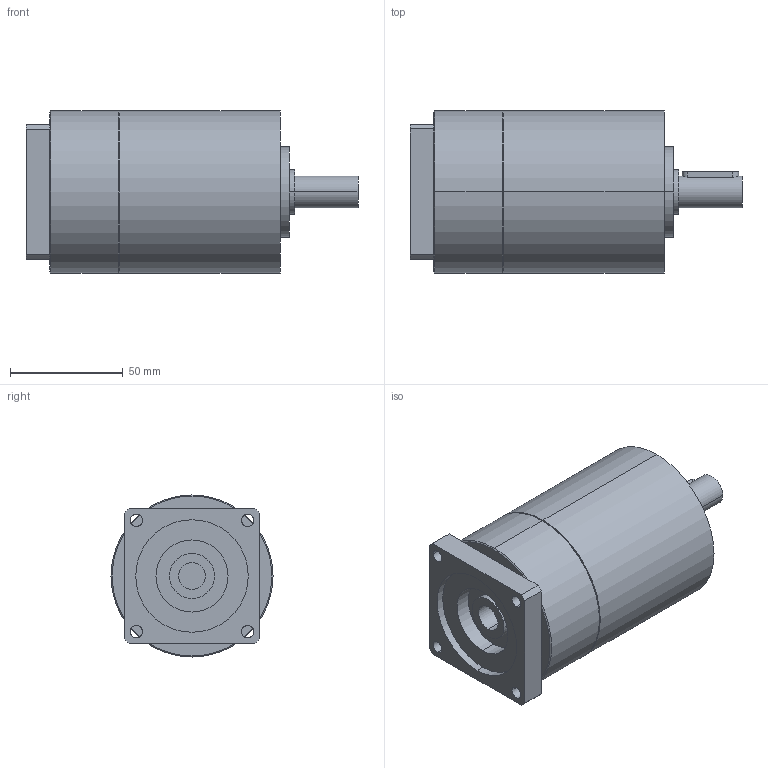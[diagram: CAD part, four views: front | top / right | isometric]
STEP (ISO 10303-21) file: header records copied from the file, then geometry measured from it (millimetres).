
FILE_DESCRIPTION(('CoCreate Modeling STEP Export'),'2;1');
FILE_NAME('GPT75_ig-9-12-16-20-25-28-35-40-50-70-100_14_B14T_12_P20.stp','2014-08-27T13:16:26',(''),(''),'CoCreate Modeling STEP processor for AP214 (Solid Model)','CoCreate Modeling 16.00C 25-Feb-2009 (C) Parametric Technology GmbH','');
FILE_SCHEMA(('AUTOMOTIVE_DESIGN { 1 0 10303 214 1 1 1 1 }'));
Length unit declared in the file: millimetre
Products named in the file (2): GPT75_ig-9-12-16-20-25-28-35-40-50-70-100_14_B14T_12_P20
Assembly tree (1 placements, depth 2):
  GPT75_ig-9-12-16-20-25-28-35-40-50-70-100_14_B14T_12_P20
    GPT75_ig-9-12-16-20-25-28-35-40-50-70-100_14_B14T_12_P20
Bounding box: 147.5 x 72 x 72 mm (x, y, z)
Volume: 448324.9 mm3; surface area: 40455.8 mm2
Topology: 1 solids, 1 shells, 80 faces, 193 edges, 124 vertices
Faces by surface type: cylinder 42, plane 34, cone 4
Entity records: 2328 total; most frequent: CARTESIAN_POINT 684, ORIENTED_EDGE 386, DIRECTION 276, EDGE_CURVE 193, VERTEX_POINT 124, AXIS2_PLACEMENT_3D 104, EDGE_LOOP 97, FACE_OUTER_BOUND 80
